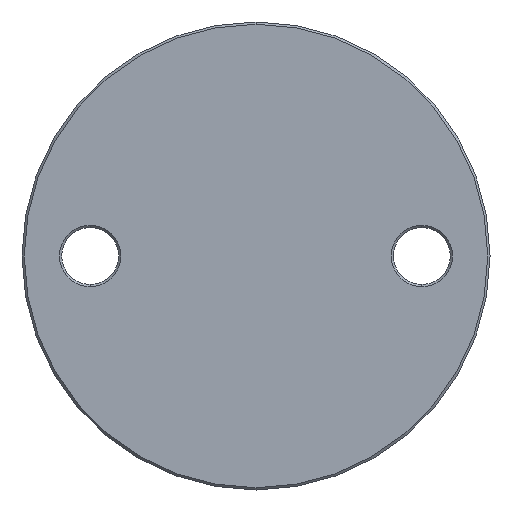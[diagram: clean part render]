
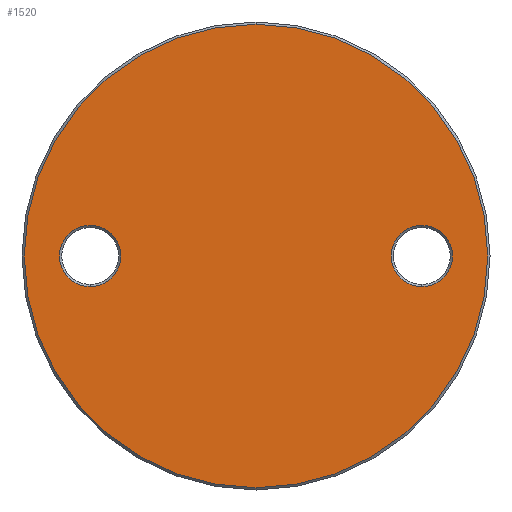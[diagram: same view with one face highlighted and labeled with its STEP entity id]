
A CAD part, front view. The second image highlights one B-rep face of the part: STEP entity #1520.
In plain terms, the highlighted planar face has unit normal (0, -1, 0).
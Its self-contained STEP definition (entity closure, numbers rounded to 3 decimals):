
#55 = EDGE_CURVE ( 'NONE', #5964, #5080, #2791, .T. ) ;
#76 = DIRECTION ( 'NONE',  ( 0., 0., -1. ) ) ;
#411 = ORIENTED_EDGE ( 'NONE', *, *, #3346, .T. ) ;
#460 = CARTESIAN_POINT ( 'NONE',  ( -36.5, -3., 6.75 ) ) ;
#572 = CIRCLE ( 'NONE', #4104, 6.75 ) ;
#792 = CARTESIAN_POINT ( 'NONE',  ( -36.5, -3., -6.75 ) ) ;
#868 = DIRECTION ( 'NONE',  ( 0., 0., -1. ) ) ;
#882 = CIRCLE ( 'NONE', #1141, 6.75 ) ;
#900 = DIRECTION ( 'NONE',  ( 0., 1., 0. ) ) ;
#917 = DIRECTION ( 'NONE',  ( 0., 1., 0. ) ) ;
#1141 = AXIS2_PLACEMENT_3D ( 'NONE', #6755, #917, #3685 ) ;
#1192 = DIRECTION ( 'NONE',  ( 0., -1., 0. ) ) ;
#1406 = EDGE_CURVE ( 'NONE', #7612, #6677, #6401, .T. ) ;
#1520 = ADVANCED_FACE ( 'NONE', ( #4143, #5141, #2650 ), #9052, .T. ) ;
#1559 = CARTESIAN_POINT ( 'NONE',  ( 0., -3., 0. ) ) ;
#1624 = AXIS2_PLACEMENT_3D ( 'NONE', #4689, #1776, #5408 ) ;
#1776 = DIRECTION ( 'NONE',  ( 0., -1., 0. ) ) ;
#1792 = EDGE_LOOP ( 'NONE', ( #6738, #8163 ) ) ;
#2650 = FACE_OUTER_BOUND ( 'NONE', #1792, .T. ) ;
#2791 = CIRCLE ( 'NONE', #3962, 51. ) ;
#2861 = ORIENTED_EDGE ( 'NONE', *, *, #1406, .T. ) ;
#2879 = EDGE_CURVE ( 'NONE', #4842, #6630, #882, .T. ) ;
#2921 = DIRECTION ( 'NONE',  ( 0., 1., 0. ) ) ;
#2944 = DIRECTION ( 'NONE',  ( 0., 0., -1. ) ) ;
#3307 = DIRECTION ( 'NONE',  ( 0., 1., 0. ) ) ;
#3346 = EDGE_CURVE ( 'NONE', #6677, #7612, #6703, .T. ) ;
#3594 = AXIS2_PLACEMENT_3D ( 'NONE', #6683, #900, #868 ) ;
#3601 = CARTESIAN_POINT ( 'NONE',  ( 36.5, -3., 0. ) ) ;
#3671 = CARTESIAN_POINT ( 'NONE',  ( 36.5, -3., 6.75 ) ) ;
#3685 = DIRECTION ( 'NONE',  ( 0., 0., -1. ) ) ;
#3962 = AXIS2_PLACEMENT_3D ( 'NONE', #1559, #5287, #76 ) ;
#4104 = AXIS2_PLACEMENT_3D ( 'NONE', #3601, #2921, #7902 ) ;
#4143 = FACE_BOUND ( 'NONE', #6562, .T. ) ;
#4442 = CARTESIAN_POINT ( 'NONE',  ( 0., -3., -51. ) ) ;
#4568 = AXIS2_PLACEMENT_3D ( 'NONE', #7676, #1192, #6273 ) ;
#4689 = CARTESIAN_POINT ( 'NONE',  ( 0., -3., 51.5 ) ) ;
#4842 = VERTEX_POINT ( 'NONE', #3671 ) ;
#5080 = VERTEX_POINT ( 'NONE', #6646 ) ;
#5141 = FACE_BOUND ( 'NONE', #6731, .T. ) ;
#5287 = DIRECTION ( 'NONE',  ( 0., -1., 0. ) ) ;
#5403 = EDGE_CURVE ( 'NONE', #6630, #4842, #572, .T. ) ;
#5408 = DIRECTION ( 'NONE',  ( 0., 0., -1. ) ) ;
#5964 = VERTEX_POINT ( 'NONE', #4442 ) ;
#6273 = DIRECTION ( 'NONE',  ( 0., 0., -1. ) ) ;
#6401 = CIRCLE ( 'NONE', #3594, 6.75 ) ;
#6562 = EDGE_LOOP ( 'NONE', ( #7018, #6657 ) ) ;
#6630 = VERTEX_POINT ( 'NONE', #8715 ) ;
#6646 = CARTESIAN_POINT ( 'NONE',  ( 0., -3., 51. ) ) ;
#6657 = ORIENTED_EDGE ( 'NONE', *, *, #2879, .T. ) ;
#6677 = VERTEX_POINT ( 'NONE', #792 ) ;
#6683 = CARTESIAN_POINT ( 'NONE',  ( -36.5, -3., 0. ) ) ;
#6703 = CIRCLE ( 'NONE', #7192, 6.75 ) ;
#6731 = EDGE_LOOP ( 'NONE', ( #411, #2861 ) ) ;
#6738 = ORIENTED_EDGE ( 'NONE', *, *, #9200, .T. ) ;
#6755 = CARTESIAN_POINT ( 'NONE',  ( 36.5, -3., 0. ) ) ;
#6924 = CARTESIAN_POINT ( 'NONE',  ( -36.5, -3., 0. ) ) ;
#7018 = ORIENTED_EDGE ( 'NONE', *, *, #5403, .T. ) ;
#7192 = AXIS2_PLACEMENT_3D ( 'NONE', #6924, #3307, #2944 ) ;
#7612 = VERTEX_POINT ( 'NONE', #460 ) ;
#7676 = CARTESIAN_POINT ( 'NONE',  ( 0., -3., 0. ) ) ;
#7723 = CIRCLE ( 'NONE', #4568, 51. ) ;
#7902 = DIRECTION ( 'NONE',  ( 0., 0., -1. ) ) ;
#8163 = ORIENTED_EDGE ( 'NONE', *, *, #55, .T. ) ;
#8715 = CARTESIAN_POINT ( 'NONE',  ( 36.5, -3., -6.75 ) ) ;
#9052 = PLANE ( 'NONE',  #1624 ) ;
#9200 = EDGE_CURVE ( 'NONE', #5080, #5964, #7723, .T. ) ;
